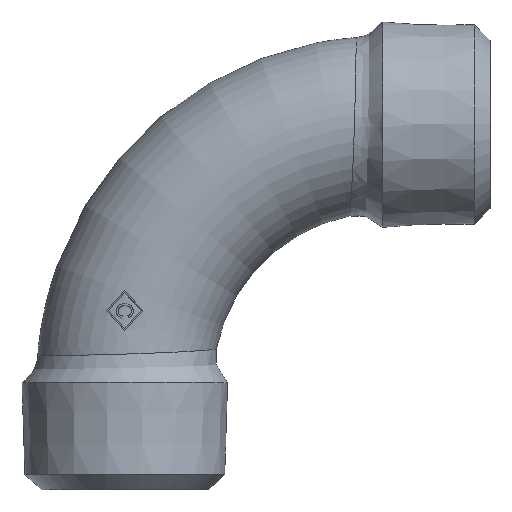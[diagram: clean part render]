
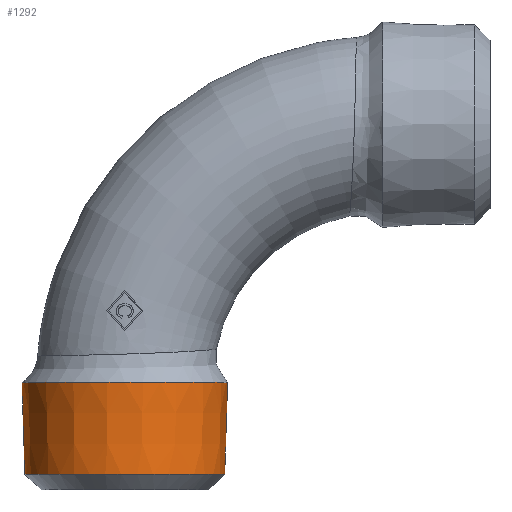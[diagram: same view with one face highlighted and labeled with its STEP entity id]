
A CAD part, top view. The second image highlights one B-rep face of the part: STEP entity #1292.
In plain terms, the highlighted conical face has half-angle 1.8 degrees and reference radius 17.15 mm.
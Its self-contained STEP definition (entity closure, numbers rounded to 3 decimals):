
#1225=CARTESIAN_POINT('',(17.233,2.649,0.0));
#1226=VERTEX_POINT('',#1225);
#1227=CARTESIAN_POINT('',(0.0,2.649,0.));
#1228=DIRECTION('',(0.0,-1.0,0.0));
#1229=DIRECTION('',(-1.0,0.0,0.0));
#1230=AXIS2_PLACEMENT_3D('',#1227,#1228,#1229);
#1231=CIRCLE('',#1230,17.233);
#1232=EDGE_CURVE('',#1226,#1226,#1231,.T.);
#1264=CARTESIAN_POINT('',(0.0,0.0,0.0));
#1265=DIRECTION('',(0.0,1.0,0.0));
#1266=DIRECTION('',(-1.0,0.0,0.0));
#1267=AXIS2_PLACEMENT_3D('',#1264,#1265,#1266);
#1268=CONICAL_SURFACE('',#1267,17.15,1.8);
#1269=CARTESIAN_POINT('',(17.731,18.5,0.));
#1270=VERTEX_POINT('',#1269);
#1271=CARTESIAN_POINT('',(-17.731,18.5,-0.014));
#1272=VERTEX_POINT('',#1271);
#1273=CARTESIAN_POINT('',(0.0,18.5,0.0));
#1274=DIRECTION('',(0.0,-1.0,0.0));
#1275=DIRECTION('',(-1.0,0.0,0.0));
#1276=AXIS2_PLACEMENT_3D('',#1273,#1274,#1275);
#1277=CIRCLE('',#1276,17.731);
#1278=EDGE_CURVE('',#1270,#1272,#1277,.T.);
#1279=ORIENTED_EDGE('',*,*,#1278,.T.);
#1280=CARTESIAN_POINT('',(0.0,18.5,0.0));
#1281=DIRECTION('',(0.0,-1.0,0.0));
#1282=DIRECTION('',(-1.0,0.0,0.0));
#1283=AXIS2_PLACEMENT_3D('',#1280,#1281,#1282);
#1284=CIRCLE('',#1283,17.731);
#1285=EDGE_CURVE('',#1272,#1270,#1284,.T.);
#1286=ORIENTED_EDGE('',*,*,#1285,.T.);
#1287=EDGE_LOOP('',(#1279,#1286));
#1288=FACE_OUTER_BOUND('',#1287,.T.);
#1289=ORIENTED_EDGE('',*,*,#1232,.F.);
#1290=EDGE_LOOP('',(#1289));
#1291=FACE_BOUND('',#1290,.T.);
#1292=ADVANCED_FACE('',(#1288,#1291),#1268,.T.);
